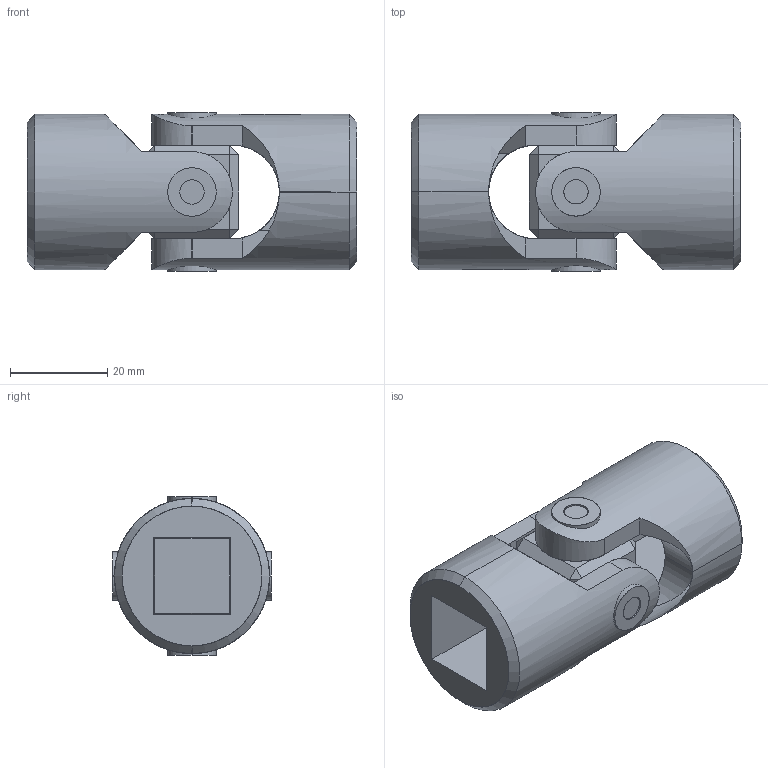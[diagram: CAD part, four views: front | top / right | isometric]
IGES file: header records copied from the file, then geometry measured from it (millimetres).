
Start section: SolidWorks IGES file using analytic representation for surfaces
Global section: file name: C:\Users\IanO\Desktop\R3690_v2\R3690_v2_20231020_IGES\R3690.016-SB.igs; native system: SolidWorks 2019; preprocessor: SolidWorks 2019; author: IanO; date: 231020.152954; units: millimetre
Bounding box: 68 x 32.64 x 32.64 mm (x, y, z)
Surface area: 16560.3 mm2 (no closed solid volume)
Topology: 0 solids, 0 shells, 108 faces, 2112 edges, 2112 vertices
Faces by surface type: bspline 64, revolution 44
